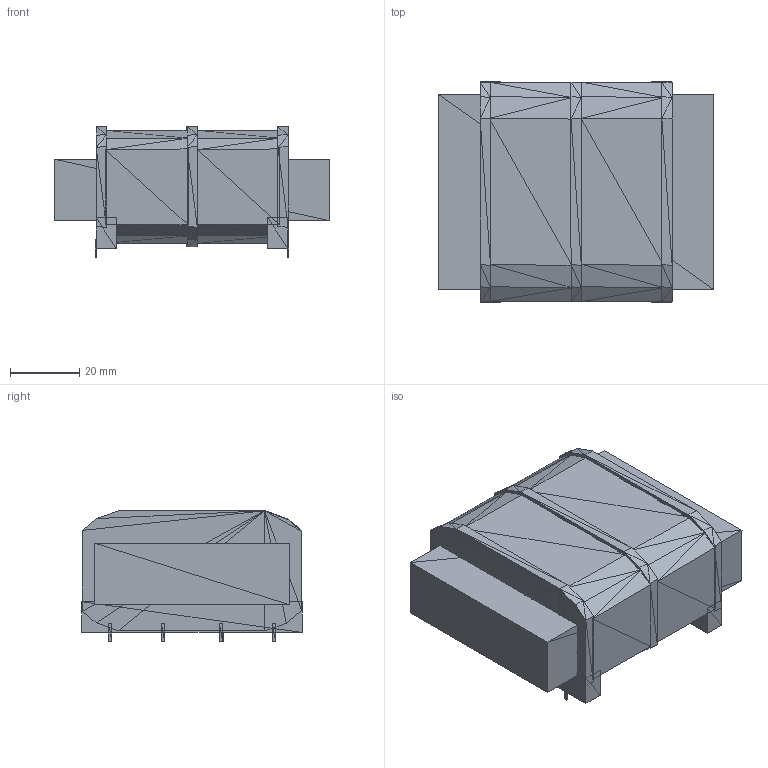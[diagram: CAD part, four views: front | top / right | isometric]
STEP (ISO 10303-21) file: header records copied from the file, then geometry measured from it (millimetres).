
FILE_DESCRIPTION(('HOOPS Exchange Step'),'2;1');
FILE_NAME('***.stp');
FILE_SCHEMA( ('AP242_MANAGED_MODEL_BASED_3D_ENGINEERING_MIM_LF {1 0 10303 442 1 1 4 }') );
Length unit declared in the file: inch
Products named in the file (17): XFRMPCB229D24_2; XFRMPCB229D24_3; XFRMPCB229D24_4; XFRMPCB229D24_5; XFRMPCB229D24_6; XFRMPCB229D24_7; XFRMPCB229D24_8; XFRMPCB229D24_9; XFRMPCB229D24_10; XFRMPCB229D24_11; XFRMPCB229D24_12; XFRMPCB229D24_13; XFRMPCB229D24_14; XFRMPCB229D24_15; XFRMPCB229D24_16; XFRMPCB229D24_17; XFRMPCB229D24
Assembly tree (16 placements, depth 2):
  XFRMPCB229D24
    XFRMPCB229D24_2
    XFRMPCB229D24_3
    XFRMPCB229D24_4
    XFRMPCB229D24_5
    XFRMPCB229D24_6
    XFRMPCB229D24_7
    XFRMPCB229D24_8
    XFRMPCB229D24_9
    XFRMPCB229D24_10
    XFRMPCB229D24_11
    XFRMPCB229D24_12
    XFRMPCB229D24_13
    XFRMPCB229D24_14
    XFRMPCB229D24_15
    XFRMPCB229D24_16
    XFRMPCB229D24_17
Bounding box: 79.16 x 63.5 x 37.69 mm (x, y, z)
Volume: 85855.3 mm3; surface area: 78714.5 mm2
Topology: 11 solids, 451 shells, 572 faces, 528 edges, 208 vertices
Faces by surface type: plane 572
Entity records: 10069 total; most frequent: DIRECTION 1740, ORIENTED_EDGE 1716, CARTESIAN_POINT 1342, AXIS2_PLACEMENT_3D 606, PLANE 572, EDGE_LOOP 572, FACE_BOUND 572, ADVANCED_FACE 572
